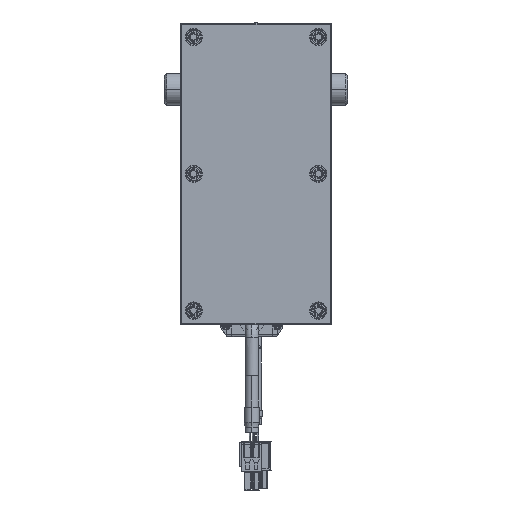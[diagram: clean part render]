
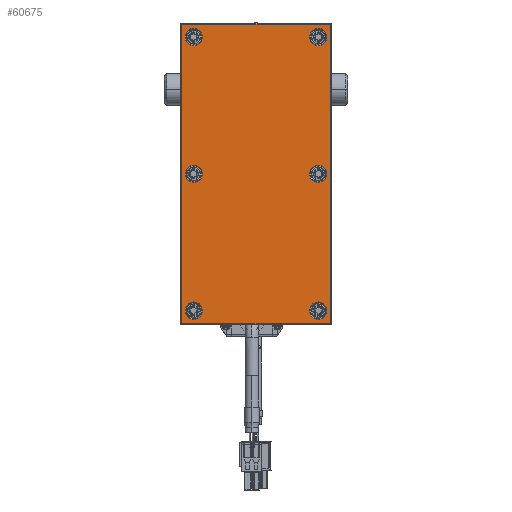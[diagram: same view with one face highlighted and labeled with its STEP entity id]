
A CAD part, front view. The second image highlights one B-rep face of the part: STEP entity #60675.
In plain terms, the highlighted planar face has unit normal (0, -1, 0).
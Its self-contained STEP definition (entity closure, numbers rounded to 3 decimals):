
#59292=CARTESIAN_POINT('',(74.,-6.,-36.5));
#59293=DIRECTION('',(0.,-1.,0.));
#59294=DIRECTION('',(0.,0.,-1.));
#59295=AXIS2_PLACEMENT_3D('',#59292,#59293,#59294);
#59297=DIRECTION('',(1.,0.,0.));
#59298=VECTOR('',#59297,148.);
#59299=CARTESIAN_POINT('',(-74.,-6.,
-37.));
#59300=LINE('',#59299,#59298);
#59301=CARTESIAN_POINT('',(-74.,-6.,-36.5));
#59302=DIRECTION('',(0.,-1.,0.));
#59303=DIRECTION('',(-1.,0.,0.));
#59304=AXIS2_PLACEMENT_3D('',#59301,#59302,#59303);
#59306=DIRECTION('',(0.,0.,-1.));
#59307=VECTOR('',#59306,73.);
#59308=CARTESIAN_POINT('',(-74.5,-6.,
36.5));
#59309=LINE('',#59308,#59307);
#59310=CARTESIAN_POINT('',(-74.,-6.,36.5));
#59311=DIRECTION('',(0.,-1.,0.));
#59312=DIRECTION('',(0.,0.,1.));
#59313=AXIS2_PLACEMENT_3D('',#59310,#59311,#59312);
#59315=DIRECTION('',(-1.,0.,0.));
#59316=VECTOR('',#59315,148.);
#59317=CARTESIAN_POINT('',(74.,-6.,
37.));
#59318=LINE('',#59317,#59316);
#59319=CARTESIAN_POINT('',(74.,-6.,36.5));
#59320=DIRECTION('',(0.,-1.,0.));
#59321=DIRECTION('',(1.,0.,0.));
#59322=AXIS2_PLACEMENT_3D('',#59319,#59320,#59321);
#59324=DIRECTION('',(0.,0.,1.));
#59325=VECTOR('',#59324,73.);
#59326=CARTESIAN_POINT('',(74.5,-6.,
-36.5));
#59327=LINE('',#59326,#59325);
#59328=CARTESIAN_POINT('',(-68.,-6.,-31.));
#59329=DIRECTION('',(0.,1.,0.));
#59330=DIRECTION('',(1.,0.,0.));
#59331=AXIS2_PLACEMENT_3D('',#59328,#59329,#59330);
#59333=CARTESIAN_POINT('',(-68.,-6.,-31.));
#59334=DIRECTION('',(0.,1.,0.));
#59335=DIRECTION('',(-1.,0.,0.));
#59336=AXIS2_PLACEMENT_3D('',#59333,#59334,#59335);
#59338=CARTESIAN_POINT('',(0.,-6.,-31.));
#59339=DIRECTION('',(0.,1.,0.));
#59340=DIRECTION('',(1.,0.,0.));
#59341=AXIS2_PLACEMENT_3D('',#59338,#59339,#59340);
#59343=CARTESIAN_POINT('',(0.,-6.,-31.));
#59344=DIRECTION('',(0.,1.,0.));
#59345=DIRECTION('',(-1.,0.,0.));
#59346=AXIS2_PLACEMENT_3D('',#59343,#59344,#59345);
#59348=CARTESIAN_POINT('',(68.,-6.,-31.));
#59349=DIRECTION('',(0.,1.,0.));
#59350=DIRECTION('',(1.,0.,0.));
#59351=AXIS2_PLACEMENT_3D('',#59348,#59349,#59350);
#59353=CARTESIAN_POINT('',(68.,-6.,-31.));
#59354=DIRECTION('',(0.,1.,0.));
#59355=DIRECTION('',(-1.,0.,0.));
#59356=AXIS2_PLACEMENT_3D('',#59353,#59354,#59355);
#59358=CARTESIAN_POINT('',(68.,-6.,31.));
#59359=DIRECTION('',(0.,1.,0.));
#59360=DIRECTION('',(1.,0.,0.));
#59361=AXIS2_PLACEMENT_3D('',#59358,#59359,#59360);
#59363=CARTESIAN_POINT('',(68.,-6.,31.));
#59364=DIRECTION('',(0.,1.,0.));
#59365=DIRECTION('',(-1.,0.,0.));
#59366=AXIS2_PLACEMENT_3D('',#59363,#59364,#59365);
#59368=CARTESIAN_POINT('',(0.,-6.,31.));
#59369=DIRECTION('',(0.,1.,0.));
#59370=DIRECTION('',(1.,0.,0.));
#59371=AXIS2_PLACEMENT_3D('',#59368,#59369,#59370);
#59373=CARTESIAN_POINT('',(0.,-6.,31.));
#59374=DIRECTION('',(0.,1.,0.));
#59375=DIRECTION('',(-1.,0.,0.));
#59376=AXIS2_PLACEMENT_3D('',#59373,#59374,#59375);
#59378=CARTESIAN_POINT('',(-68.,-6.,31.));
#59379=DIRECTION('',(0.,1.,0.));
#59380=DIRECTION('',(1.,0.,0.));
#59381=AXIS2_PLACEMENT_3D('',#59378,#59379,#59380);
#59383=CARTESIAN_POINT('',(-68.,-6.,31.));
#59384=DIRECTION('',(0.,1.,0.));
#59385=DIRECTION('',(-1.,0.,0.));
#59386=AXIS2_PLACEMENT_3D('',#59383,#59384,#59385);
#60416=CARTESIAN_POINT('',(74.,-6.,-37.));
#60417=CARTESIAN_POINT('',(74.5,-6.,-36.5));
#60418=VERTEX_POINT('',#60416);
#60419=VERTEX_POINT('',#60417);
#60424=CARTESIAN_POINT('',(74.5,-6.,
36.5));
#60425=VERTEX_POINT('',#60424);
#60428=CARTESIAN_POINT('',(74.,-6.,37.));
#60429=VERTEX_POINT('',#60428);
#60432=CARTESIAN_POINT('',(-74.,-6.,
37.));
#60433=VERTEX_POINT('',#60432);
#60436=CARTESIAN_POINT('',(-74.5,-6.,36.5));
#60437=VERTEX_POINT('',#60436);
#60440=CARTESIAN_POINT('',(-74.5,-6.,
-36.5));
#60441=VERTEX_POINT('',#60440);
#60444=CARTESIAN_POINT('',(-74.,-6.,-37.));
#60445=VERTEX_POINT('',#60444);
#60472=CARTESIAN_POINT('',(-63.7,-6.,-31.));
#60473=CARTESIAN_POINT('',(-72.3,-6.,-31.));
#60474=VERTEX_POINT('',#60472);
#60475=VERTEX_POINT('',#60473);
#60488=CARTESIAN_POINT('',(4.3,-6.,-31.));
#60489=CARTESIAN_POINT('',(-4.3,-6.,-31.));
#60490=VERTEX_POINT('',#60488);
#60491=VERTEX_POINT('',#60489);
#60512=CARTESIAN_POINT('',(72.3,-6.,-31.));
#60513=CARTESIAN_POINT('',(63.7,-6.,-31.));
#60514=VERTEX_POINT('',#60512);
#60515=VERTEX_POINT('',#60513);
#60528=CARTESIAN_POINT('',(72.3,-6.,31.));
#60529=CARTESIAN_POINT('',(63.7,-6.,31.));
#60530=VERTEX_POINT('',#60528);
#60531=VERTEX_POINT('',#60529);
#60536=CARTESIAN_POINT('',(4.3,-6.,31.));
#60537=CARTESIAN_POINT('',(-4.3,-6.,31.));
#60538=VERTEX_POINT('',#60536);
#60539=VERTEX_POINT('',#60537);
#60560=CARTESIAN_POINT('',(-63.7,-6.,31.));
#60561=CARTESIAN_POINT('',(-72.3,-6.,31.));
#60562=VERTEX_POINT('',#60560);
#60563=VERTEX_POINT('',#60561);
#60616=CARTESIAN_POINT('',(0.,-6.,0.));
#60617=DIRECTION('',(0.,1.,0.));
#60618=DIRECTION('',(1.,0.,0.));
#60619=AXIS2_PLACEMENT_3D('',#60616,#60617,#60618);
#60620=PLANE('',#60619);
#60622=ORIENTED_EDGE('',*,*,#60621,.F.);
#60624=ORIENTED_EDGE('',*,*,#60623,.F.);
#60626=ORIENTED_EDGE('',*,*,#60625,.F.);
#60628=ORIENTED_EDGE('',*,*,#60627,.F.);
#60630=ORIENTED_EDGE('',*,*,#60629,.F.);
#60632=ORIENTED_EDGE('',*,*,#60631,.F.);
#60634=ORIENTED_EDGE('',*,*,#60633,.F.);
#60636=ORIENTED_EDGE('',*,*,#60635,.F.);
#60637=EDGE_LOOP('',(#60622,#60624,#60626,#60628,#60630,#60632,#60634,#60636));
#60638=FACE_OUTER_BOUND('',#60637,.F.);
#60640=ORIENTED_EDGE('',*,*,#60639,.F.);
#60642=ORIENTED_EDGE('',*,*,#60641,.F.);
#60643=EDGE_LOOP('',(#60640,#60642));
#60644=FACE_BOUND('',#60643,.F.);
#60646=ORIENTED_EDGE('',*,*,#60645,.F.);
#60648=ORIENTED_EDGE('',*,*,#60647,.F.);
#60649=EDGE_LOOP('',(#60646,#60648));
#60650=FACE_BOUND('',#60649,.F.);
#60652=ORIENTED_EDGE('',*,*,#60651,.F.);
#60654=ORIENTED_EDGE('',*,*,#60653,.F.);
#60655=EDGE_LOOP('',(#60652,#60654));
#60656=FACE_BOUND('',#60655,.F.);
#60658=ORIENTED_EDGE('',*,*,#60657,.F.);
#60660=ORIENTED_EDGE('',*,*,#60659,.F.);
#60661=EDGE_LOOP('',(#60658,#60660));
#60662=FACE_BOUND('',#60661,.F.);
#60664=ORIENTED_EDGE('',*,*,#60663,.F.);
#60666=ORIENTED_EDGE('',*,*,#60665,.F.);
#60667=EDGE_LOOP('',(#60664,#60666));
#60668=FACE_BOUND('',#60667,.F.);
#60670=ORIENTED_EDGE('',*,*,#60669,.F.);
#60672=ORIENTED_EDGE('',*,*,#60671,.F.);
#60673=EDGE_LOOP('',(#60670,#60672));
#60674=FACE_BOUND('',#60673,.F.);
#60675=ADVANCED_FACE('',(#60638,#60644,#60650,#60656,#60662,#60668,#60674),
#60620,.F.);
#59296=CIRCLE('',#59295,0.5);
#59305=CIRCLE('',#59304,0.5);
#59314=CIRCLE('',#59313,0.5);
#59323=CIRCLE('',#59322,0.5);
#59332=CIRCLE('',#59331,4.3);
#59337=CIRCLE('',#59336,4.3);
#59342=CIRCLE('',#59341,4.3);
#59347=CIRCLE('',#59346,4.3);
#59352=CIRCLE('',#59351,4.3);
#59357=CIRCLE('',#59356,4.3);
#59362=CIRCLE('',#59361,4.3);
#59367=CIRCLE('',#59366,4.3);
#59372=CIRCLE('',#59371,4.3);
#59377=CIRCLE('',#59376,4.3);
#59382=CIRCLE('',#59381,4.3);
#59387=CIRCLE('',#59386,4.3);
#60621=EDGE_CURVE('',#60418,#60419,#59296,.T.);
#60623=EDGE_CURVE('',#60445,#60418,#59300,.T.);
#60625=EDGE_CURVE('',#60441,#60445,#59305,.T.);
#60627=EDGE_CURVE('',#60437,#60441,#59309,.T.);
#60629=EDGE_CURVE('',#60433,#60437,#59314,.T.);
#60631=EDGE_CURVE('',#60429,#60433,#59318,.T.);
#60633=EDGE_CURVE('',#60425,#60429,#59323,.T.);
#60635=EDGE_CURVE('',#60419,#60425,#59327,.T.);
#60639=EDGE_CURVE('',#60474,#60475,#59332,.T.);
#60641=EDGE_CURVE('',#60475,#60474,#59337,.T.);
#60645=EDGE_CURVE('',#60490,#60491,#59342,.T.);
#60647=EDGE_CURVE('',#60491,#60490,#59347,.T.);
#60651=EDGE_CURVE('',#60514,#60515,#59352,.T.);
#60653=EDGE_CURVE('',#60515,#60514,#59357,.T.);
#60657=EDGE_CURVE('',#60530,#60531,#59362,.T.);
#60659=EDGE_CURVE('',#60531,#60530,#59367,.T.);
#60663=EDGE_CURVE('',#60538,#60539,#59372,.T.);
#60665=EDGE_CURVE('',#60539,#60538,#59377,.T.);
#60669=EDGE_CURVE('',#60562,#60563,#59382,.T.);
#60671=EDGE_CURVE('',#60563,#60562,#59387,.T.);
